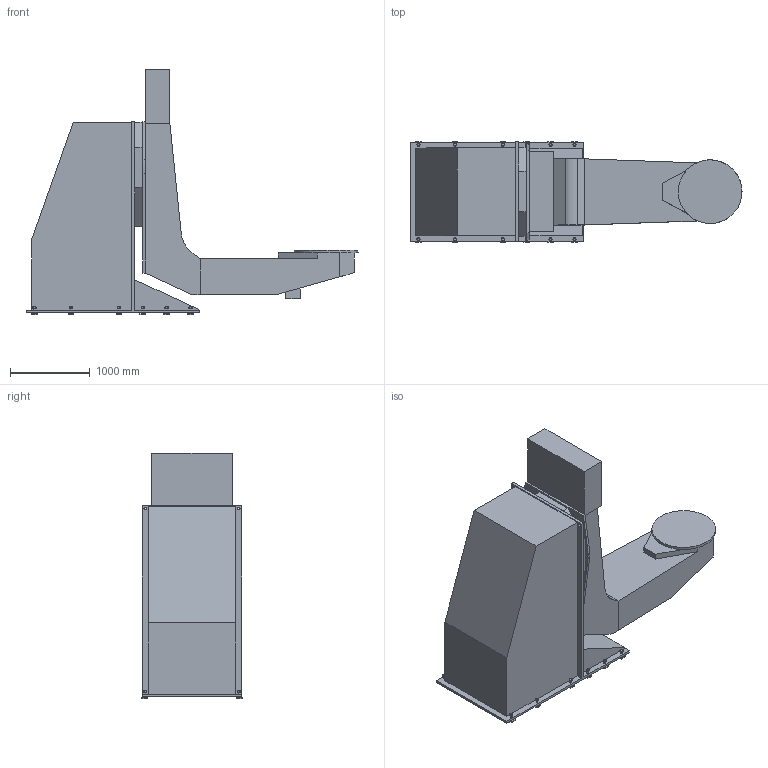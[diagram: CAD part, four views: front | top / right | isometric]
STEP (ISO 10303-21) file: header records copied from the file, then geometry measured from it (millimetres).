
FILE_DESCRIPTION((''),'2;1');
FILE_NAME('S:\Manipulatorer\Produkter\Layout symboler\MT1\MT1-3000 S2N\215104-100 MT1-3000 S2N (STEP).stp','2008-01-23T15:19:46',('Kristian'),(''),'Autodesk Inventor 2008','Autodesk Inventor 2008','');
FILE_SCHEMA(('AUTOMOTIVE_DESIGN { 1 0 10303 214 1 1 1 1 }'));
Length unit declared in the file: millimetre
Products named in the file (18): 215104-100 MT1-3000 S2N (STEP); 114728-100 X-Enhet (iAssy)-01 (No detail); 114728-100 X-Enhet (iAssy)-01 (low-res); 114728-100 X-Enhet (iAssy)-01 (low-res)_1; 114728-100 X-Enhet (iAssy)-01 (low-res)_2; 114728-100 X-Enhet (iAssy)-01 (low-res)_3; 114728-100 X-Enhet (iAssy)-01 (low-res)_4; 114728-100 X-Enhet (iAssy)-01 (low-res)_5; 114728-100 X-Enhet (iAssy)-01 (low-res)_6; 114728-100 X-Enhet (iAssy)-01 (low-res)_7; 114728-100 X-Enhet (iAssy)-01 (low-res)_8; 114728-100 X-Enhet (iAssy)-01 (low-res)_9; 114728-100 X-Enhet (iAssy)-01 (low-res)_10; 114728-100 X-Enhet (iAssy)-01 (low-res)_11; 114728-100 X-Enhet (iAssy)-01 (low-res)_12; 114728-100 X-Enhet (iAssy)-01 (low-res)_13; 114732-101 Arm MT1-3000 S2N (No details); 114732-101 Arm MT1-3000 S2N (low-res)
Assembly tree (17 placements, depth 4):
  215104-100 MT1-3000 S2N (STEP)
    114728-100 X-Enhet (iAssy)-01 (No detail)
      114728-100 X-Enhet (iAssy)-01 (low-res)
        114728-100 X-Enhet (iAssy)-01 (low-res)_1
        114728-100 X-Enhet (iAssy)-01 (low-res)_2
        114728-100 X-Enhet (iAssy)-01 (low-res)_3
        114728-100 X-Enhet (iAssy)-01 (low-res)_4
        114728-100 X-Enhet (iAssy)-01 (low-res)_5
        114728-100 X-Enhet (iAssy)-01 (low-res)_6
        114728-100 X-Enhet (iAssy)-01 (low-res)_7
        114728-100 X-Enhet (iAssy)-01 (low-res)_8
        114728-100 X-Enhet (iAssy)-01 (low-res)_9
        114728-100 X-Enhet (iAssy)-01 (low-res)_10
        114728-100 X-Enhet (iAssy)-01 (low-res)_11
        114728-100 X-Enhet (iAssy)-01 (low-res)_12
        114728-100 X-Enhet (iAssy)-01 (low-res)_13
    114732-101 Arm MT1-3000 S2N (No details)
      114732-101 Arm MT1-3000 S2N (low-res)
Bounding box: 4167.01 x 1260 x 3085 mm (x, y, z)
Volume: 4920725768 mm3; surface area: 30977954.8 mm2
Topology: 14 solids, 14 shells, 410 faces, 904 edges, 586 vertices
Faces by surface type: plane 281, cylinder 69, cone 60
Full cylindrical faces by diameter (mm): 24 x36, 30 x14, 33.61 x12, 800 x1, 893 x1
Entity records: 12034 total; most frequent: CARTESIAN_POINT 2769, DIRECTION 1748, ORIENTED_EDGE 1534, EDGE_CURVE 767, AXIS2_PLACEMENT_3D 632, EDGE_LOOP 578, VERTEX_POINT 549, VECTOR 484
